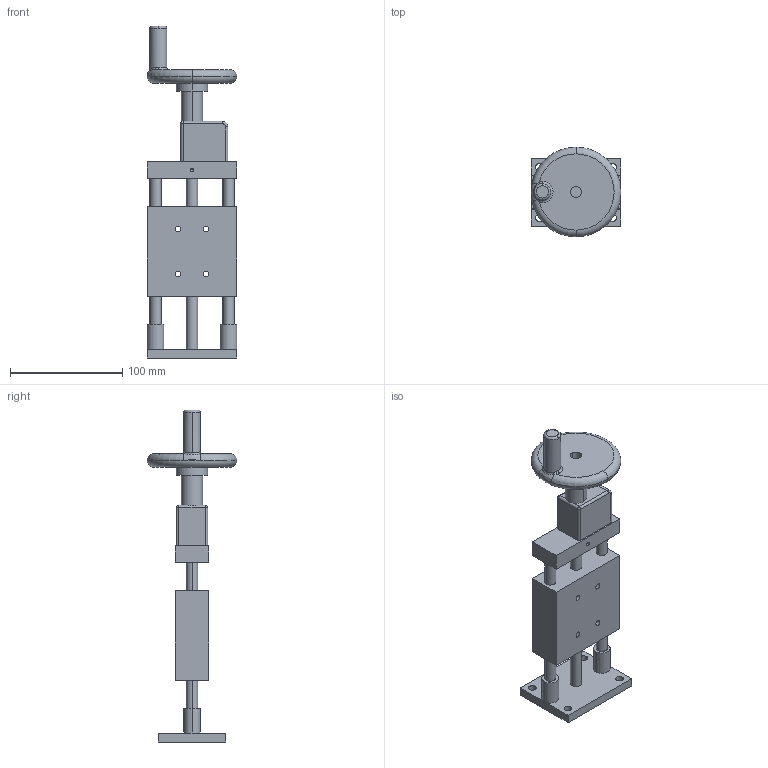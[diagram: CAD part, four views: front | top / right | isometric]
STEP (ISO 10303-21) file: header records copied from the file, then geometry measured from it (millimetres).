
FILE_DESCRIPTION (( 'STEP AP203' ), '1' );
FILE_NAME ('PT-SD503S.STEP', '2022-04-16T03:21:58', ( '' ), ( '' ), 'SwSTEP 2.0', 'SolidWorks 2017', '' );
FILE_SCHEMA (( 'CONFIG_CONTROL_DESIGN' ));
Length unit declared in the file: millimetre
Products named in the file (3): PT-SD503S; 忒謫2; 503S
Assembly tree (2 placements, depth 2):
  PT-SD503S
    503S
    忒謫2
Bounding box: 80 x 80 x 296 mm (x, y, z)
Volume: 397820.1 mm3; surface area: 72892 mm2
Topology: 2 solids, 2 shells, 101 faces, 248 edges, 155 vertices
Faces by surface type: cylinder 51, plane 30, torus 12, bspline 4, cone 2, sphere 2
Entity records: 3623 total; most frequent: CARTESIAN_POINT 815, DIRECTION 574, ORIENTED_EDGE 488, EDGE_CURVE 244, AXIS2_PLACEMENT_3D 236, VERTEX_POINT 155, EDGE_LOOP 135, CIRCLE 134
